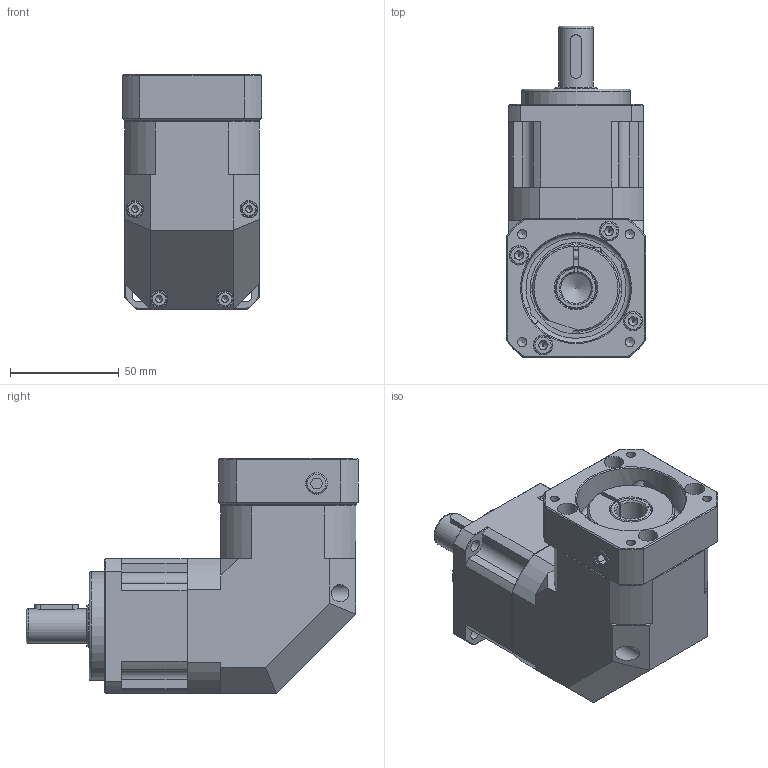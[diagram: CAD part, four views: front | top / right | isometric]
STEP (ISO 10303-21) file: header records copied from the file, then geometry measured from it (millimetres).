
FILE_DESCRIPTION((''),'2;1');
FILE_NAME('C:\Work\감속기 카다로그 도면\ATG Reducer(홈페이지)\PBL-H\PBL62-H-1.stp','2014-06-05T12:02:40',('young'),(''),'Autodesk Inventor 2012','Autodesk Inventor 2012','');
FILE_SCHEMA(('AUTOMOTIVE_DESIGN { 1 0 10303 214 1 1 1 1 }'));
Length unit declared in the file: millimetre
Products named in the file (1): PBL62-H-1
Bounding box: 64 x 152.5 x 108 mm (x, y, z)
Volume: 426441 mm3; surface area: 107343.3 mm2
Topology: 21 solids, 21 shells, 641 faces, 1580 edges, 1028 vertices
Faces by surface type: plane 363, cylinder 138, cone 100, torus 20, bspline 20
Full cylindrical faces by diameter (mm): 3 x4, 3.3 x4, 4 x5, 4.2 x10, 4.5 x4, 5 x9, 5.5 x9, 7 x5, 8 x4, 8.5 x4, 9 x4, 9.5 x2, 11 x1, 14.2 x1, 16 x1, 19.3 x1, 19.8 x2, 20 x2, 30 x2, 34 x1, 35 x6, 40 x1, 42 x1, 48 x2, 50 x4, 52 x1
Entity records: 23896 total; most frequent: CARTESIAN_POINT 9681, DIRECTION 2878, ORIENTED_EDGE 2722, EDGE_CURVE 1361, AXIS2_PLACEMENT_3D 1106, VERTEX_POINT 976, EDGE_LOOP 897, VECTOR 666
